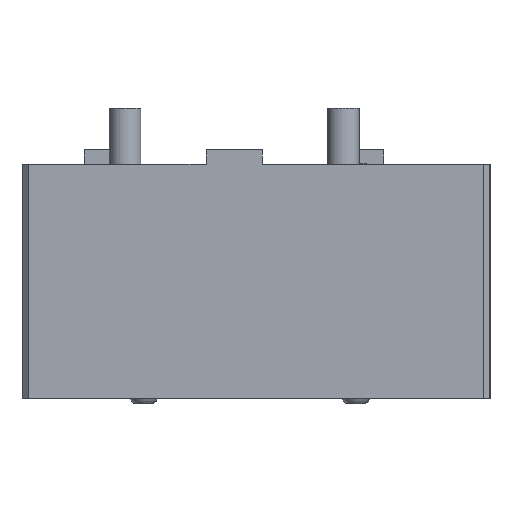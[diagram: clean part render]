
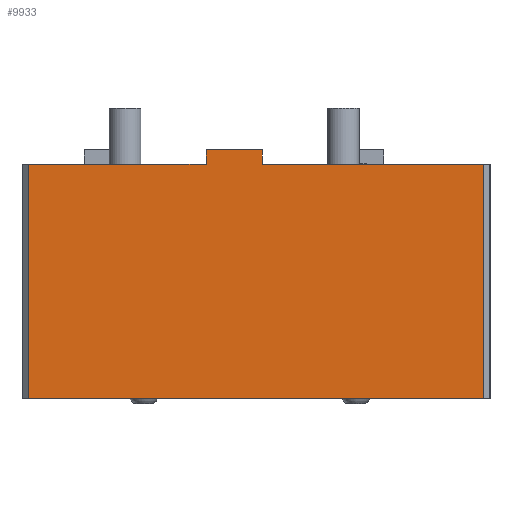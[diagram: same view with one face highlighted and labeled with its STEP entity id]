
A CAD part, front view. The second image highlights one B-rep face of the part: STEP entity #9933.
In plain terms, the highlighted planar face has unit normal (0, -1, 0).
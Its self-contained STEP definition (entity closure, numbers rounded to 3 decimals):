
#4740=ORIENTED_EDGE('',*,*,#6495,.T.);
#4741=ORIENTED_EDGE('',*,*,#6496,.F.);
#4742=ORIENTED_EDGE('',*,*,#6497,.F.);
#4743=ORIENTED_EDGE('',*,*,#6487,.T.);
#4744=ORIENTED_EDGE('',*,*,#6498,.F.);
#4745=ORIENTED_EDGE('',*,*,#6441,.T.);
#4746=ORIENTED_EDGE('',*,*,#6499,.T.);
#4747=ORIENTED_EDGE('',*,*,#6500,.T.);
#5512=VECTOR('',#7508,1.);
#5548=VECTOR('',#7580,1.);
#5554=VECTOR('',#7592,1.);
#5555=VECTOR('',#7593,1.);
#5556=VECTOR('',#7594,1.);
#5557=VECTOR('',#7595,1.);
#5558=VECTOR('',#7596,1.);
#5559=VECTOR('',#7597,1.);
#5818=LINE('',#8528,#5512);
#5854=LINE('',#8621,#5548);
#5860=LINE('',#8637,#5554);
#5861=LINE('',#8639,#5555);
#5862=LINE('',#8640,#5556);
#5863=LINE('',#8641,#5557);
#5864=LINE('',#8643,#5558);
#5865=LINE('',#8644,#5559);
#6124=VERTEX_POINT('',#8525);
#6125=VERTEX_POINT('',#8527);
#6163=VERTEX_POINT('',#8619);
#6164=VERTEX_POINT('',#8620);
#6170=VERTEX_POINT('',#8635);
#6171=VERTEX_POINT('',#8636);
#6172=VERTEX_POINT('',#8638);
#6173=VERTEX_POINT('',#8642);
#6441=EDGE_CURVE('',#6125,#6124,#5818,.T.);
#6487=EDGE_CURVE('',#6163,#6164,#5854,.T.);
#6495=EDGE_CURVE('',#6170,#6171,#5860,.T.);
#6496=EDGE_CURVE('',#6172,#6171,#5861,.T.);
#6497=EDGE_CURVE('',#6163,#6172,#5862,.T.);
#6498=EDGE_CURVE('',#6125,#6164,#5863,.T.);
#6499=EDGE_CURVE('',#6124,#6173,#5864,.T.);
#6500=EDGE_CURVE('',#6173,#6170,#5865,.T.);
#6872=EDGE_LOOP('',(#4740,#4741,#4742,#4743,#4744,#4745,#4746,#4747));
#7164=FACE_BOUND('',#6872,.T.);
#7508=DIRECTION('',(146.,0.,0.));
#7580=DIRECTION('',(-57.,0.,0.));
#7590=DIRECTION('',(0.,-1.,0.));
#7591=DIRECTION('',(-1.,0.,0.));
#7592=DIRECTION('',(0.,0.,4.75));
#7593=DIRECTION('',(18.,0.,0.));
#7594=DIRECTION('',(0.,0.,4.75));
#7595=DIRECTION('',(0.,0.,75.));
#7596=DIRECTION('',(0.,0.,75.));
#7597=DIRECTION('',(-71.,0.,0.));
#8525=CARTESIAN_POINT('',(80.,-48.,-64.));
#8527=CARTESIAN_POINT('',(-66.,-48.,-64.));
#8528=CARTESIAN_POINT('',(-66.,-48.,-64.));
#8619=CARTESIAN_POINT('',(-9.,-48.,11.));
#8620=CARTESIAN_POINT('',(-66.,-48.,11.));
#8621=CARTESIAN_POINT('',(-9.,-48.,11.));
#8634=CARTESIAN_POINT('',(9.,-48.,6.));
#8635=CARTESIAN_POINT('',(9.,-48.,11.));
#8636=CARTESIAN_POINT('',(9.,-48.,15.75));
#8637=CARTESIAN_POINT('',(9.,-48.,11.));
#8638=CARTESIAN_POINT('',(-9.,-48.,15.75));
#8639=CARTESIAN_POINT('',(-9.,-48.,15.75));
#8640=CARTESIAN_POINT('',(-9.,-48.,11.));
#8641=CARTESIAN_POINT('',(-66.,-48.,-64.));
#8642=CARTESIAN_POINT('',(80.,-48.,11.));
#8643=CARTESIAN_POINT('',(80.,-48.,-64.));
#8644=CARTESIAN_POINT('',(80.,-48.,11.));
#9435=AXIS2_PLACEMENT_3D('',#8634,#7590,#7591);
#9761=PLANE('',#9435);
#9933=ADVANCED_FACE('',(#7164),#9761,.T.);
